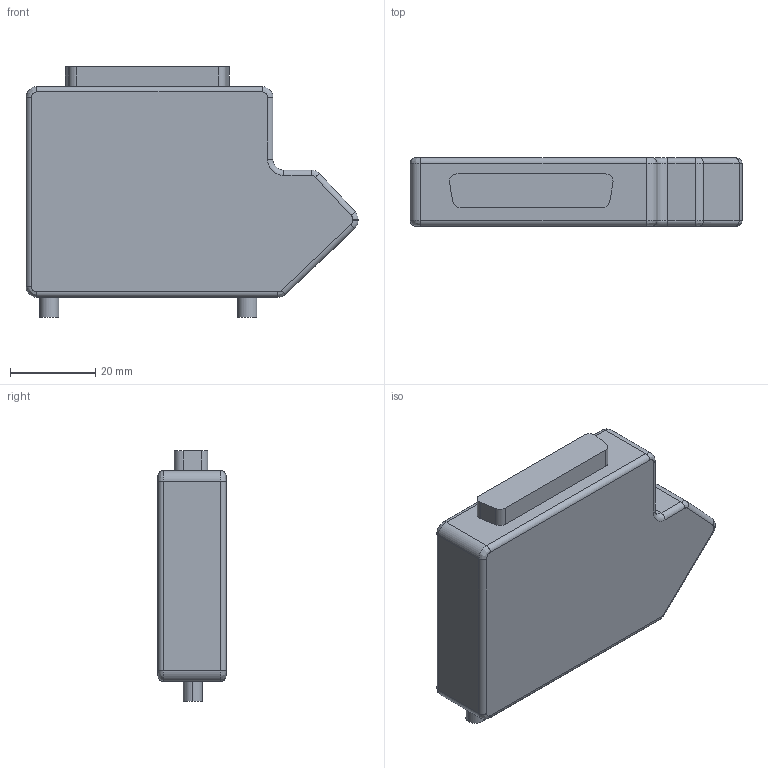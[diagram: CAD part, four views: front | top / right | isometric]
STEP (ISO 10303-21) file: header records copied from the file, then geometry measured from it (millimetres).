
FILE_DESCRIPTION((''),'2;1');
FILE_NAME('CONN_CRIO_DB_25_TB','2007-01-25T',('chrisj'),(''),'PRO/ENGINEER BY PARAMETRIC TECHNOLOGY CORPORATION, 2006080','PRO/ENGINEER BY PARAMETRIC TECHNOLOGY CORPORATION, 2006080','');
FILE_SCHEMA(('AUTOMOTIVE_DESIGN_CC2 { 1 2 10303 214 -1 1 5 2 }'));
Length unit declared in the file: inch
Products named in the file (1): CONN_CRIO_DB_25_TB
Bounding box: 77.95 x 16 x 58.89 mm (x, y, z)
Volume: 52355 mm3; surface area: 10961.8 mm2
Topology: 1 solids, 1 shells, 72 faces, 165 edges, 98 vertices
Faces by surface type: cylinder 34, plane 18, torus 11, bspline 9
Entity records: 2180 total; most frequent: CARTESIAN_POINT 475, DIRECTION 383, ORIENTED_EDGE 330, EDGE_CURVE 165, AXIS2_PLACEMENT_3D 156, VERTEX_POINT 98, CIRCLE 93, EDGE_LOOP 75
